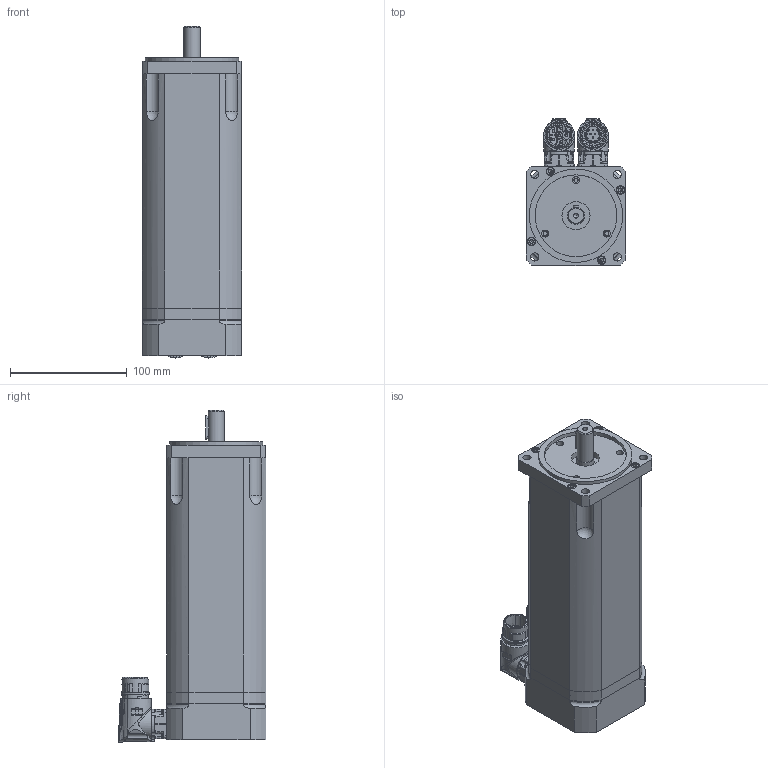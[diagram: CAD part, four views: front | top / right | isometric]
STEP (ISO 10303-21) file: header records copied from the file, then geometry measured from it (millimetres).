
FILE_DESCRIPTION(/* description */ (''),/* implementation_level */ '2;1');
FILE_NAME(/* name */ 'C:\Users\Public\Documents\Autodesk\Inventor LT 2014\Workspace\Motori Sito WEB\TG_3\STEP_DSM5_3x\DSM5_34_x197.stp',/* time_stamp */ '2021-03-31T14:12:26+02:00',/* author */ ('marcor'),/* organization */ (''),/* preprocessor_version */ 'ST-DEVELOPER v15.2',/* originating_system */ 'Autodesk Inventor LT ',/* authorisation */ '');
FILE_SCHEMA (('AUTOMOTIVE_DESIGN { 1 0 10303 214 3 1 1 }'));
Products named in the file (1): DSM5_34_x197
Bounding box: 85 x 126.5 x 284.41 mm (x, y, z)
Volume: 1744061.6 mm3; surface area: 162766.6 mm2
Topology: 16 solids, 26 shells, 1433 faces, 3712 edges, 2469 vertices
Faces by surface type: plane 525, cylinder 441, cone 247, bspline 113, torus 75, sphere 32
Full cylindrical faces by diameter (mm): 1.2 x12, 2.224 x8, 2.233 x6, 2.5 x8, 2.88 x8, 3.242 x12, 3.26 x8, 3.5 x3, 4 x12, 4.134 x1, 4.5 x14, 4.8 x8, 5.5 x3, 5.9 x2, 6 x3, 7 x16, 7.2 x8, 7.5 x4, 13.8 x1, 14 x1, 14.98 x1, 15.2 x1, 17.4 x3, 18 x1, 19.8 x1, 21.15 x4, 21.6 x1, 21.653 x2, 24 x1, 24.3 x2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
Entity records: 50760 total; most frequent: CARTESIAN_POINT 17585, ORIENTED_EDGE 6546, DIRECTION 6113, EDGE_CURVE 3273, AXIS2_PLACEMENT_3D 2513, VERTEX_POINT 2359, EDGE_LOOP 1964, ADVANCED_FACE 1433
